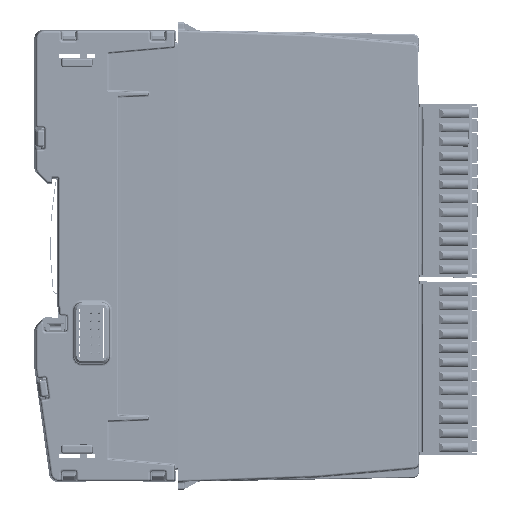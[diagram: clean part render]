
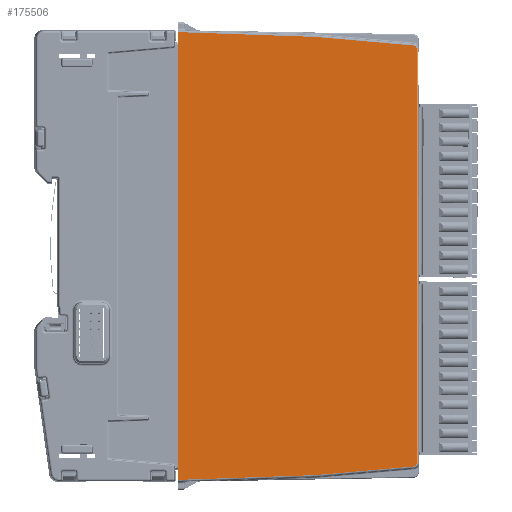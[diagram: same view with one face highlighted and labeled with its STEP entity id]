
A CAD part, left-side view. The second image highlights one B-rep face of the part: STEP entity #175506.
In plain terms, the highlighted planar face has unit normal (-1, -0.018, 0).
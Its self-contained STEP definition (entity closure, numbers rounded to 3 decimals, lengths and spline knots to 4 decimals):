
#5757=ELLIPSE('',#188486,0.0315,0.0315);
#5758=ELLIPSE('',#188487,0.0315,0.0315);
#9528=PLANE('',#188485);
#17409=FACE_OUTER_BOUND('',#27161,.T.);
#27161=EDGE_LOOP('',(#141700,#141701,#141702,#141703,#141704,#141705,#141706,
#141707,#141708,#141709));
#47944=LINE('',#290494,#65199);
#47945=LINE('',#290496,#65200);
#47946=LINE('',#290498,#65201);
#47947=LINE('',#290500,#65202);
#47948=LINE('',#290502,#65203);
#47949=LINE('',#290506,#65204);
#47950=LINE('',#290510,#65205);
#47951=LINE('',#290511,#65206);
#65199=VECTOR('',#222861,39.3701);
#65200=VECTOR('',#222862,39.3701);
#65201=VECTOR('',#222863,39.3701);
#65202=VECTOR('',#222864,39.3701);
#65203=VECTOR('',#222865,39.3701);
#65204=VECTOR('',#222868,39.3701);
#65205=VECTOR('',#222871,39.3701);
#65206=VECTOR('',#222872,39.3701);
#81494=VERTEX_POINT('',#290492);
#81495=VERTEX_POINT('',#290493);
#81496=VERTEX_POINT('',#290495);
#81497=VERTEX_POINT('',#290497);
#81498=VERTEX_POINT('',#290499);
#81499=VERTEX_POINT('',#290501);
#81500=VERTEX_POINT('',#290503);
#81501=VERTEX_POINT('',#290505);
#81502=VERTEX_POINT('',#290507);
#81503=VERTEX_POINT('',#290509);
#102569=EDGE_CURVE('',#81494,#81495,#47944,.T.);
#102570=EDGE_CURVE('',#81496,#81495,#47945,.T.);
#102571=EDGE_CURVE('',#81496,#81497,#47946,.T.);
#102572=EDGE_CURVE('',#81497,#81498,#47947,.T.);
#102573=EDGE_CURVE('',#81498,#81499,#47948,.T.);
#102574=EDGE_CURVE('',#81499,#81500,#5757,.T.);
#102575=EDGE_CURVE('',#81500,#81501,#47949,.T.);
#102576=EDGE_CURVE('',#81501,#81502,#5758,.T.);
#102577=EDGE_CURVE('',#81502,#81503,#47950,.T.);
#102578=EDGE_CURVE('',#81503,#81494,#47951,.T.);
#141700=ORIENTED_EDGE('',*,*,#102569,.T.);
#141701=ORIENTED_EDGE('',*,*,#102570,.F.);
#141702=ORIENTED_EDGE('',*,*,#102571,.T.);
#141703=ORIENTED_EDGE('',*,*,#102572,.T.);
#141704=ORIENTED_EDGE('',*,*,#102573,.T.);
#141705=ORIENTED_EDGE('',*,*,#102574,.T.);
#141706=ORIENTED_EDGE('',*,*,#102575,.T.);
#141707=ORIENTED_EDGE('',*,*,#102576,.T.);
#141708=ORIENTED_EDGE('',*,*,#102577,.T.);
#141709=ORIENTED_EDGE('',*,*,#102578,.T.);
#175506=ADVANCED_FACE('',(#17409),#9528,.T.);
#188485=AXIS2_PLACEMENT_3D('',#290491,#222859,#222860);
#188486=AXIS2_PLACEMENT_3D('',#290504,#222866,#222867);
#188487=AXIS2_PLACEMENT_3D('',#290508,#222869,#222870);
#222859=DIRECTION('center_axis',(-1.,-0.017,
0.));
#222860=DIRECTION('ref_axis',(-0.017,1.,0.));
#222861=DIRECTION('',(0.,0.,-1.));
#222862=DIRECTION('',(0.,0.,1.));
#222863=DIRECTION('',(0.,0.,-1.));
#222864=DIRECTION('',(0.017,-0.999,0.035));
#222865=DIRECTION('',(0.017,-0.996,0.087));
#222866=DIRECTION('center_axis',(-1.,-0.017,
0.));
#222867=DIRECTION('ref_axis',(0.017,-1.,0.));
#222868=DIRECTION('',(0.,0.,1.));
#222869=DIRECTION('center_axis',(-1.,-0.017,
0.));
#222870=DIRECTION('ref_axis',(0.017,-1.,0.));
#222871=DIRECTION('',(-0.017,0.996,0.087));
#222872=DIRECTION('',(-0.017,0.999,0.035));
#290491=CARTESIAN_POINT('Origin',(-0.0296,-0.489,
-2.0669));
#290492=CARTESIAN_POINT('',(-0.0227,-0.8827,0.1083));
#290493=CARTESIAN_POINT('',(-0.0227,-0.8827,-0.0312));
#290494=CARTESIAN_POINT('',(-0.0227,-0.8827,0.128));
#290495=CARTESIAN_POINT('',(-0.0227,-0.8827,-4.1027));
#290496=CARTESIAN_POINT('',(-0.0227,-0.8827,-7.5932));
#290497=CARTESIAN_POINT('',(-0.0227,-0.8827,-4.2421));
#290498=CARTESIAN_POINT('',(-0.0227,-0.8827,0.128));
#290499=CARTESIAN_POINT('',(0.0007,-2.2205,-4.1954));
#290500=CARTESIAN_POINT('',(-0.0282,-0.5654,-4.2532));
#290501=CARTESIAN_POINT('',(0.0174,-3.1772,-4.1117));
#290502=CARTESIAN_POINT('',(-0.0261,-0.6869,-4.3296));
#290503=CARTESIAN_POINT('',(0.0179,-3.2059,-4.0803));
#290504=CARTESIAN_POINT('Origin',(0.0173,-3.1744,
-4.0803));
#290505=CARTESIAN_POINT('',(0.0179,-3.2059,-0.0535));
#290506=CARTESIAN_POINT('',(0.0179,-3.2059,-0.0535));
#290507=CARTESIAN_POINT('',(0.0174,-3.1772,-0.0221));
#290508=CARTESIAN_POINT('Origin',(0.0173,-3.1744,
-0.0535));
#290509=CARTESIAN_POINT('',(0.0007,-2.2205,0.0616));
#290510=CARTESIAN_POINT('',(-0.0261,-0.6869,0.1957));
#290511=CARTESIAN_POINT('',(-0.0282,-0.5654,0.1194));
